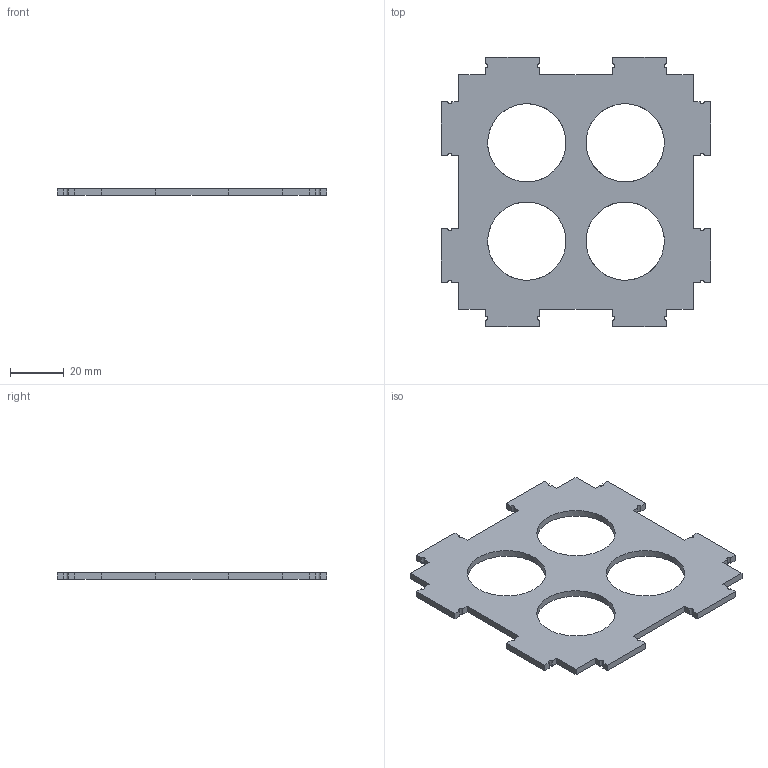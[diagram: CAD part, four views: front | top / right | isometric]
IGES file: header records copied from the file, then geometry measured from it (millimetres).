
Global section: file name: 2.Lateral derecha ; native system: Autodesk Inventor 2022; preprocessor: unknown; author: pined; date: 20220531.022037; units: millimetre
Bounding box: 100 x 100 x 2.5 mm (x, y, z)
Volume: 14869.8 mm3; surface area: 13981.2 mm2
Topology: 1 solids, 1 shells, 74 faces, 220 edges, 149 vertices
Faces by surface type: bspline 74
